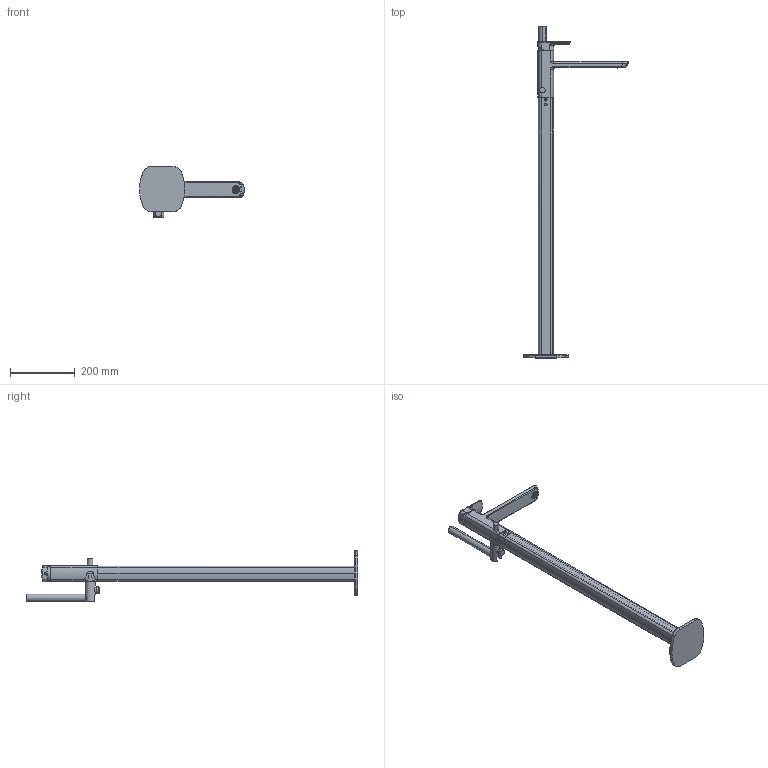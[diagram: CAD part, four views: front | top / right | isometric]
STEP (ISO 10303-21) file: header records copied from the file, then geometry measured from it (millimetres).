
FILE_DESCRIPTION (( 'STEP AP214' ), '1' );
FILE_NAME ('56117910 x architetti.STEP', '2024-11-23T08:41:37', ( '' ), ( '' ), 'SwSTEP 2.0', 'SolidWorks 2020', '' );
FILE_SCHEMA (( 'AUTOMOTIVE_DESIGN' ));
Length unit declared in the file: millimetre
Products named in the file (1): 56117910 x architetti
Bounding box: 324.8 x 1027.65 x 157.95 mm (x, y, z)
Surface area: 422275.1 mm2 (no closed solid volume)
Topology: 0 solids, 14 shells, 1873 faces, 4535 edges, 2932 vertices
Faces by surface type: plane 1219, cylinder 381, bspline 235, cone 36, torus 2
Entity records: 95165 total; most frequent: CARTESIAN_POINT 36654, ORIENTED_EDGE 9008, DIRECTION 7178, EDGE_CURVE 4509, VECTOR 3090, LINE 3090, VERTEX_POINT 2928, EDGE_LOOP 2147
